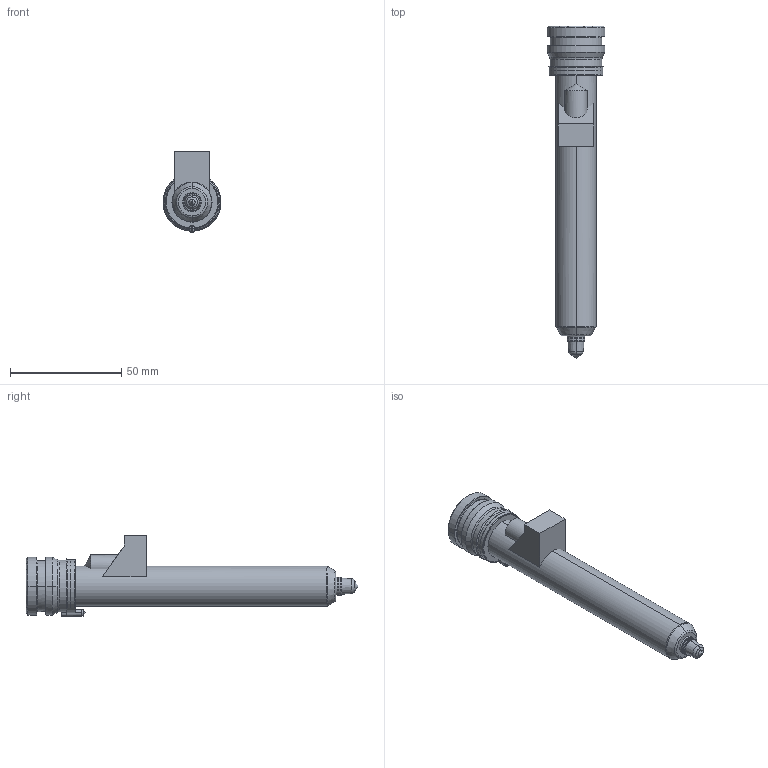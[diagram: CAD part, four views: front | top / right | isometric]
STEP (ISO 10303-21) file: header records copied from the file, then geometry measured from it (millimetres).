
FILE_DESCRIPTION((''),'2;1');
FILE_NAME('TH18131-M-1B50-PK-JG','2023-12-14T',('umhib'),('Thermoplay S.p.A.'),'PRO/ENGINEER BY PARAMETRIC TECHNOLOGY CORPORATION, 2017170','PRO/ENGINEER BY PARAMETRIC TECHNOLOGY CORPORATION, 2017170','');
FILE_SCHEMA(('CONFIG_CONTROL_DESIGN'));
Length unit declared in the file: millimetre
Products named in the file (1): TH18131-M-1B50-PK-JG
Bounding box: 26 x 149 x 36.1 mm (x, y, z)
Volume: 29743.5 mm3; surface area: 22717.3 mm2
Topology: 1 solids, 2 shells, 389 faces, 993 edges, 609 vertices
Faces by surface type: cylinder 149, plane 87, cone 62, torus 56, bspline 22, sphere 11, extrusion 2
Entity records: 16885 total; most frequent: CARTESIAN_POINT 5242, DIRECTION 1992, ORIENTED_EDGE 1960, EDGE_CURVE 982, AXIS2_PLACEMENT_3D 802, VERTEX_POINT 609, CIRCLE 436, EDGE_LOOP 412
